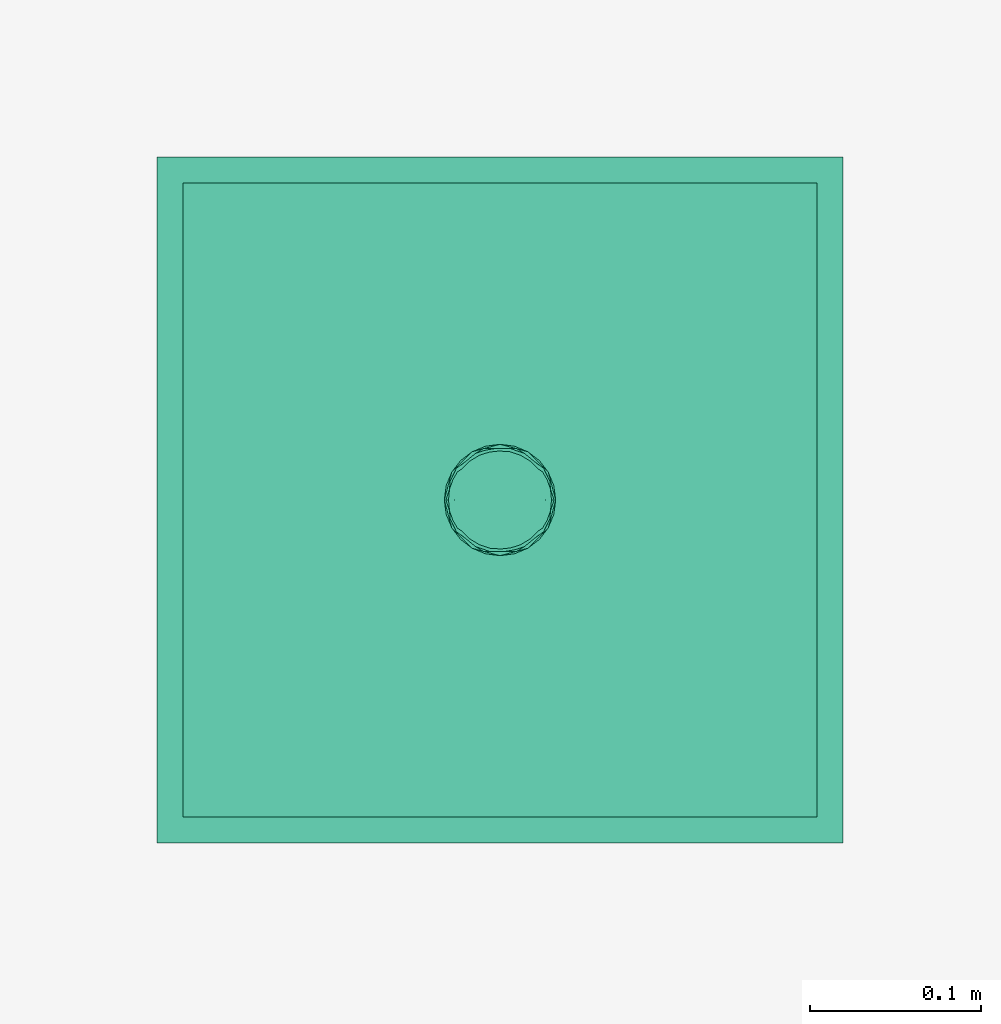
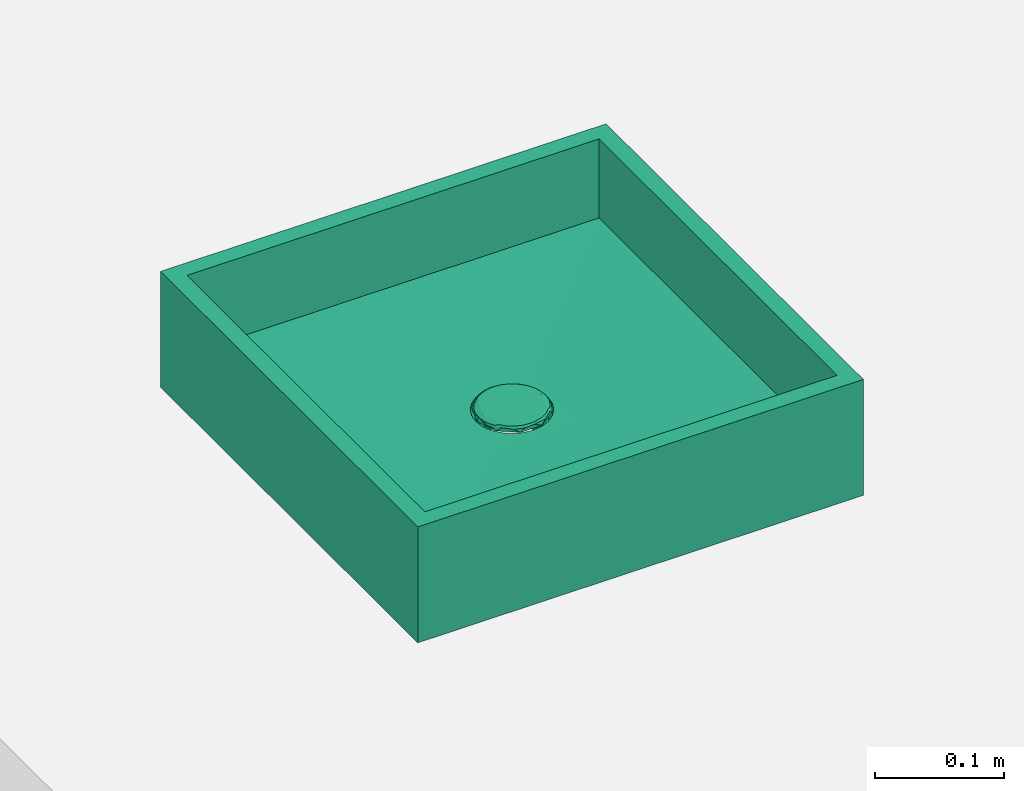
# One storey, part 2 of 2: 1 flow terminal.
"""IFC2X3 building model written with IfcOpenShell, lengths in millimetres."""

from ifc_helpers import new_model, entity, si_unit, converted_unit, derived_unit, direction, frame, origin, place, context, subcontext, project, spatial, faceted_brep, source, transform, mapped, material, element, save


model = new_model("IFC2X3")

# Units and contexts
model_context = context("Model", 3, precision=0.01, world=origin(), true_north=direction((6.12303176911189e-17, 1.0)))
context_of_model = context(None, 3, precision=0.01, world=origin(), true_north=direction((6.12303176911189e-17, 1.0)))
body_context = subcontext(model_context, "Body", "Model", "MODEL_VIEW")
ifc_project = project(units=[si_unit("LENGTHUNIT", "METRE", prefix="MILLI"), si_unit("AREAUNIT", "SQUARE_METRE"), si_unit("VOLUMEUNIT", "CUBIC_METRE"), converted_unit("PLANEANGLEUNIT", "DEGREE", entity("IfcRatioMeasure", 0.0174532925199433), si_unit("PLANEANGLEUNIT", "RADIAN"), dimensions=[0, 0, 0, 0, 0, 0, 0]), si_unit("MASSUNIT", "GRAM", prefix="KILO"), derived_unit("MASSDENSITYUNIT", [(si_unit("MASSUNIT", "GRAM", prefix="KILO"), 1), (si_unit("LENGTHUNIT", "METRE"), -3)]), si_unit("TIMEUNIT", "SECOND"), si_unit("FREQUENCYUNIT", "HERTZ"), si_unit("THERMODYNAMICTEMPERATUREUNIT", "DEGREE_CELSIUS"), derived_unit("THERMALTRANSMITTANCEUNIT", [(si_unit("MASSUNIT", "GRAM", prefix="KILO"), 1), (si_unit("THERMODYNAMICTEMPERATUREUNIT", "KELVIN"), -1), (si_unit("TIMEUNIT", "SECOND"), -3)]), derived_unit("VOLUMETRICFLOWRATEUNIT", [(si_unit("LENGTHUNIT", "METRE"), 3), (si_unit("TIMEUNIT", "SECOND"), -1)]), si_unit("ELECTRICCURRENTUNIT", "AMPERE"), si_unit("ELECTRICVOLTAGEUNIT", "VOLT"), si_unit("POWERUNIT", "WATT"), si_unit("FORCEUNIT", "NEWTON", prefix="KILO"), si_unit("ILLUMINANCEUNIT", "LUX"), si_unit("LUMINOUSFLUXUNIT", "LUMEN"), si_unit("LUMINOUSINTENSITYUNIT", "CANDELA"), derived_unit("USERDEFINED", [(si_unit("MASSUNIT", "GRAM", prefix="KILO"), -1), (si_unit("LENGTHUNIT", "METRE"), -2), (si_unit("TIMEUNIT", "SECOND"), 3), (si_unit("LUMINOUSFLUXUNIT", "LUMEN"), 1)]), derived_unit("LINEARVELOCITYUNIT", [(si_unit("LENGTHUNIT", "METRE"), 1), (si_unit("TIMEUNIT", "SECOND"), -1)]), si_unit("PRESSUREUNIT", "PASCAL"), derived_unit("USERDEFINED", [(si_unit("LENGTHUNIT", "METRE"), -2), (si_unit("MASSUNIT", "GRAM", prefix="KILO"), 1), (si_unit("TIMEUNIT", "SECOND"), -2)])], contexts=[model_context, context_of_model])

# Site, building, storey
site_placement = place(None, origin())
site = spatial("IfcSite", under=ifc_project, at=site_placement, Name="Default", CompositionType="ELEMENT")
building_placement = place(site_placement, origin())
building = spatial("IfcBuilding", under=site, at=building_placement, Name="n/a", CompositionType="ELEMENT")
storey_placement = place(building_placement, origin())
storey = spatial("IfcBuildingStorey", under=building, at=storey_placement, Name="Level 0", CompositionType="ELEMENT", Elevation=0.0)

# Flow terminal
ifc_material = material(Name="DBLTD_Neilur_SolidSurface_White")
shared_shape = source(origin(), body_context, "Body", "Brep", [
    faceted_brep([(0.0, 0.0, 35.0), (21.4389503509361, 15.5763091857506, 35.0), (14.8139503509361, 20.3896534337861, 35.0), (8.18895035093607, 25.2029976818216, 35.0), (0.0, 25.2029976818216, 35.0), (23.969475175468, 7.78815459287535, 35.0), (26.5, 0.0, 35.0), (-8.18895035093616, 25.2029976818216, 35.0), (-14.8139503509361, 20.3896534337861, 35.0), (-21.4389503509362, 15.5763091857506, 35.0), (-23.9694751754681, 7.78815459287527, 35.0), (-26.5000000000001, 0.0, 35.0), (-23.969475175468, -7.78815459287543, 35.0), (23.9694751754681, -7.78815459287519, 35.0), (21.4389503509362, -15.5763091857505, 35.0), (14.8139503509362, -20.389653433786, 35.0), (8.18895035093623, -25.2029976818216, 35.0), (-21.4389503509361, -15.5763091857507, 35.0), (-14.813950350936, -20.3896534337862, 35.0), (-8.188950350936, -25.2029976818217, 35.0), (0.0, -25.2029976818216, 35.0), (27.5968407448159, 11.6392673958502, 33.6181607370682), (28.2677669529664, 0.0, 34.2677669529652), (29.4831430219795, 6.11507081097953, 33.4588116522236), (21.446911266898, 21.3158187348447, 33.3207930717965), (25.4840353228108, 18.515235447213, 30.0), (17.6090353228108, 24.2367578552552, 30.0), (-9.7340353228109, 29.9582802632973, 30.0), (-17.6090353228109, 24.2367578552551, 30.0), (-14.2990292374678, 27.1460196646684, 32.7410080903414), (-26.4461757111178, 16.2373152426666, 32.1098331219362), (-29.0519223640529, 11.0794329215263, 31.9761905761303), (-27.5968407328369, 11.6392674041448, 33.6181607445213), (-25.4840353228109, 18.5152354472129, 30.0), (-6.22017772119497, 27.9409885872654, 34.5259763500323), (-12.0582284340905, 26.0752941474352, 34.4759541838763), (-21.8226872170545, 18.4353402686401, 34.5526049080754), (-17.8048363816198, 22.5831993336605, 34.4611859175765), (-29.4831430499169, 6.11507088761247, 33.4588116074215), (-28.2677669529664, 0.0, 34.2677669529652), (-24.7969163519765, 16.4457168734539, 33.7955523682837), (-8.80272925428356, 28.9743841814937, 33.2704807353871), (5.89997557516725, 30.0572966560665, 32.8170609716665), (0.0, 29.9582802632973, 30.0), (-2.76183433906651, 30.032449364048, 33.4074109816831), (-21.4469113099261, 21.3158186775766, 33.3207930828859), (30.0355339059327, 0.0, 33.5355339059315), (12.0582284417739, 26.0752941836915, 34.4759541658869), (26.4461757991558, 16.2373151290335, 32.1098330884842), (24.7969163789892, 16.4457169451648, 33.7955523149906), (21.8226873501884, 18.4353401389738, 34.5526048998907), (17.8048364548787, 22.5831992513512, 34.461185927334), (31.5, 0.0, 30.0), (28.4920176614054, 9.25761772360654, 30.0), (29.0519224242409, 11.0794327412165, 31.9761905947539), (5.68214279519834, 28.1837553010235, 34.4647193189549), (-0.583033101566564, 28.5582276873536, 34.5540275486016), (14.2990292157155, 27.1460197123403, 32.7410080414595), (9.73403532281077, 29.9582802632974, 30.0), (-31.5, 0.0, 30.0), (-30.0355339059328, 0.0, 33.5355339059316), (-28.4920176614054, 9.25761772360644, 30.0), (17.8048363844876, -22.5831993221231, 34.4611859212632), (-21.446910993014, -21.3158190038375, 33.3207930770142), (-25.4840353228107, -18.5152354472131, 30.0), (-17.6090353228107, -24.2367578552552, 30.0), (9.73403532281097, -29.9582802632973, 30.0), (17.6090353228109, -24.2367578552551, 30.0), (14.2990292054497, -27.1460196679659, 32.7410081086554), (26.4461757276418, -16.2373152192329, 32.1098331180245), (29.0519223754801, -11.0794328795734, 31.9761905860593), (27.5968407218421, -11.6392674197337, 33.6181607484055), (25.4840353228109, -18.5152354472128, 30.0), (6.22017778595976, -27.9409885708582, 34.525976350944), (12.0582284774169, -26.0752941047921, 34.4759541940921), (-27.5968407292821, -11.6392674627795, 33.6181607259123), (-29.48314293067, -6.11507064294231, 33.4588117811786), (29.4831430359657, -6.11507087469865, 33.4588116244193), (24.7969163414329, -16.4457169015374, 33.7955523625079), (21.4469112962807, -21.3158186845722, 33.320793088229), (8.80272921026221, -28.9743842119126, 33.2704807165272), (-5.89997547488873, -30.0572966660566, 32.8170609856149), (0.0, -29.9582802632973, 30.0), (2.76183435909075, -30.0324493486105, 33.4074109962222), (-12.0582286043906, -26.0752941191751, 34.4759541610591), (-26.4461759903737, -16.2373148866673, 32.1098330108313), (-24.7969163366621, -16.4457172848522, 33.7955521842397), (-21.8226874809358, -18.4353400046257, 34.552604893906), (-17.804836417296, -22.5831992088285, 34.4611859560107), (-28.4920176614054, -9.25761772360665, 30.0), (-29.0519225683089, -11.0794322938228, 31.9761906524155), (21.8226872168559, -18.4353402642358, 34.5526049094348), (-5.68214324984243, -28.1837552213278, 34.4647193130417), (0.583033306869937, -28.5582276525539, 34.5540275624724), (-14.2990290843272, -27.1460198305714, 32.7410079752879), (-9.73403532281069, -29.9582802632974, 30.0), (28.4920176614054, -9.25761772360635, 30.0), (0.0, 0.0, 30.0)], [[[0, 1, 2]], [[0, 2, 3]], [[0, 3, 4]], [[0, 5, 1]], [[0, 6, 5]], [[0, 4, 7]], [[0, 7, 8]], [[0, 8, 9]], [[0, 9, 10]], [[0, 10, 11]], [[0, 11, 12]], [[0, 13, 6]], [[0, 14, 13]], [[0, 15, 14]], [[0, 16, 15]], [[0, 12, 17]], [[0, 17, 18]], [[0, 18, 19]], [[0, 19, 20]], [[0, 20, 16]], [[21, 22, 23]], [[24, 25, 26]], [[27, 28, 29]], [[30, 31, 32]], [[31, 30, 33]], [[34, 35, 7]], [[36, 9, 37]], [[38, 39, 32]], [[30, 32, 40]], [[37, 9, 8]], [[27, 29, 41]], [[42, 43, 44]], [[29, 28, 45]], [[34, 41, 35]], [[23, 22, 46]], [[47, 3, 2]], [[48, 24, 49]], [[50, 24, 51]], [[46, 52, 53]], [[8, 35, 37]], [[25, 54, 53]], [[32, 11, 10]], [[28, 33, 45]], [[42, 55, 47]], [[34, 56, 44]], [[24, 26, 57]], [[7, 35, 8]], [[37, 29, 45]], [[29, 37, 35]], [[37, 45, 36]], [[42, 57, 58]], [[57, 26, 58]], [[57, 47, 51]], [[43, 27, 44]], [[47, 55, 3]], [[42, 58, 43]], [[51, 47, 2]], [[51, 1, 50]], [[42, 47, 57]], [[1, 51, 2]], [[57, 51, 24]], [[44, 56, 42]], [[45, 40, 36]], [[34, 4, 56]], [[4, 3, 55]], [[59, 60, 61]], [[54, 25, 48]], [[36, 40, 10]], [[30, 45, 33]], [[32, 10, 40]], [[45, 30, 40]], [[31, 33, 61]], [[60, 38, 61]], [[38, 32, 31]], [[61, 38, 31]], [[10, 9, 36]], [[32, 39, 11]], [[38, 60, 39]], [[6, 21, 5]], [[49, 24, 50]], [[5, 50, 1]], [[48, 49, 21]], [[48, 21, 54]], [[24, 48, 25]], [[21, 23, 54]], [[53, 54, 23]], [[21, 6, 22]], [[53, 23, 46]], [[50, 5, 49]], [[49, 5, 21]], [[4, 34, 7]], [[41, 34, 44]], [[27, 41, 44]], [[35, 41, 29]], [[4, 55, 56]], [[42, 56, 55]], [[62, 14, 15]], [[63, 64, 65]], [[66, 67, 68]], [[69, 70, 71]], [[70, 69, 72]], [[73, 74, 16]], [[75, 39, 76]], [[77, 22, 71]], [[69, 71, 78]], [[68, 67, 79]], [[66, 68, 80]], [[81, 82, 83]], [[84, 19, 18]], [[85, 63, 86]], [[73, 80, 74]], [[60, 76, 39]], [[71, 6, 13]], [[87, 63, 88]], [[60, 59, 89]], [[15, 74, 62]], [[64, 90, 89]], [[91, 14, 62]], [[67, 72, 79]], [[81, 92, 84]], [[73, 93, 83]], [[63, 65, 94]], [[16, 74, 15]], [[62, 68, 79]], [[68, 62, 74]], [[62, 79, 91]], [[81, 94, 95]], [[94, 65, 95]], [[94, 84, 88]], [[82, 66, 83]], [[84, 92, 19]], [[81, 95, 82]], [[88, 84, 18]], [[88, 17, 87]], [[81, 84, 94]], [[17, 88, 18]], [[94, 88, 63]], [[83, 93, 81]], [[79, 78, 91]], [[73, 20, 93]], [[20, 19, 92]], [[52, 46, 96]], [[90, 64, 85]], [[91, 78, 13]], [[69, 79, 72]], [[71, 13, 78]], [[79, 69, 78]], [[70, 72, 96]], [[46, 77, 96]], [[77, 71, 70]], [[96, 77, 70]], [[13, 14, 91]], [[71, 22, 6]], [[77, 46, 22]], [[11, 75, 12]], [[86, 63, 87]], [[12, 87, 17]], [[85, 86, 75]], [[85, 75, 90]], [[63, 85, 64]], [[75, 76, 90]], [[89, 90, 76]], [[75, 11, 39]], [[89, 76, 60]], [[87, 12, 86]], [[86, 12, 75]], [[20, 73, 16]], [[80, 73, 83]], [[66, 80, 83]], [[74, 80, 68]], [[20, 92, 93]], [[81, 93, 92]], [[97, 58, 26]], [[97, 26, 25]], [[97, 25, 53]], [[97, 53, 52]], [[97, 52, 96]], [[97, 43, 58]], [[97, 27, 43]], [[97, 28, 27]], [[97, 33, 28]], [[97, 61, 33]], [[97, 59, 61]], [[97, 96, 72]], [[97, 72, 67]], [[97, 67, 66]], [[97, 66, 82]], [[97, 89, 59]], [[97, 64, 89]], [[97, 65, 64]], [[97, 95, 65]], [[97, 82, 95]]]),
    faceted_brep([(200.0, 200.0, 110.0), (185.0, 185.0, 110.0), (185.0, -185.0, 110.0), (-185.0, 185.0, 110.0), (200.0, -200.0, 110.0), (-200.0, 200.0, 110.0), (-185.0, -185.0, 110.0), (-200.0, -200.0, 110.0), (-200.0, 200.0, 0.0), (-19.4855715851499, 11.25, 0.0), (-21.7333310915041, 5.82342851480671, 0.0), (-15.9099025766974, 15.9099025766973, 0.0), (-22.5, 0.0, 0.0), (-11.25, 19.4855715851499, 0.0), (-5.82342851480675, 21.733331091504, 0.0), (0.0, 22.5, 0.0), (200.0, 200.0, 0.0), (-200.0, -200.0, 0.0), (5.82342851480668, 21.733331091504, 0.0), (11.2499999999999, 19.4855715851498, 0.0), (15.9099025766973, 15.9099025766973, 0.0), (19.4855715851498, 11.2499999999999, 0.0), (21.733331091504, 5.82342851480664, 0.0), (22.4999999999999, 0.0, 0.0), (200.0, -200.0, 0.0), (21.733331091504, -5.82342851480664, 0.0), (19.4855715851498, -11.2499999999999, 0.0), (15.9099025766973, -15.9099025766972, 0.0), (11.25, -19.4855715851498, 0.0), (5.82342851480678, -21.733331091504, 0.0), (0.0, -22.5, 0.0), (-21.733331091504, -5.82342851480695, 0.0), (-19.4855715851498, -11.2500000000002, 0.0), (-15.9099025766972, -15.9099025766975, 0.0), (-11.2499999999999, -19.48557158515, 0.0), (-5.82342851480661, -21.7333310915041, 0.0), (-185.0, 185.0, 35.0), (-185.0, -185.0, 35.0), (185.0, -185.0, 35.0), (185.0, 185.0, 35.0), (31.3925893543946, -8.4116189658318, 30.1799578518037), (28.1458256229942, -16.2499999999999, 30.1799578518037), (35.0, -35.0, 30.1799578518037), (32.4999999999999, 0.0, 30.1799578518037), (22.9809703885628, -22.9809703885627, 30.1799578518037), (16.25, -28.1458256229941, 30.1799578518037), (8.41161896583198, -31.3925893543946, 30.1799578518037), (0.0, -32.4999999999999, 30.1799578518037), (-35.0, -35.0, 30.1799578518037), (-8.41161896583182, -31.3925893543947, 30.1799578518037), (-16.2499999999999, -28.1458256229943, 30.1799578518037), (-22.9809703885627, -22.9809703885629, 30.1799578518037), (-28.1458256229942, -16.2500000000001, 30.1799578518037), (-31.3925893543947, -8.4116189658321, 30.1799578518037), (-32.5, 0.0, 30.1799578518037), (-35.0, 35.0, 30.1799578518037), (-31.3925893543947, 8.4116189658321, 30.1799578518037), (-28.1458256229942, 16.2500000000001, 30.1799578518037), (-22.9809703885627, 22.9809703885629, 30.1799578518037), (-16.2499999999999, 28.1458256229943, 30.1799578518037), (-8.41161896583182, 31.3925893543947, 30.1799578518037), (0.0, 32.4999999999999, 30.1799578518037), (35.0, 35.0, 30.1799578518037), (8.41161896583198, 31.3925893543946, 30.1799578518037), (16.25, 28.1458256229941, 30.1799578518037), (22.9809703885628, 22.9809703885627, 30.1799578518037), (28.1458256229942, 16.2499999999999, 30.1799578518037), (31.3925893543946, 8.4116189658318, 30.1799578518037), (-30.3229128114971, 8.12499999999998, 10.1799578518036), (-22.1979128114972, 22.1979128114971, 10.1799578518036), (0.0, 32.4999999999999, 10.1799578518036), (-8.12500000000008, 30.3229128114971, 10.1799578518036), (16.2499999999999, 28.1458256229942, 10.1799578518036), (8.12499999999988, 30.3229128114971, 10.1799578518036), (-32.5, 0.0, 10.1799578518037), (-16.2500000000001, 28.1458256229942, 10.1799578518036), (-28.1458256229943, 16.25, 10.1799578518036), (22.197912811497, 22.1979128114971, 10.1799578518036), (30.322912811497, 8.12500000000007, 10.1799578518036), (32.4999999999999, 0.0, 10.1799578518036), (28.1458256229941, 16.25, 10.1799578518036), (30.322912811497, -8.12499999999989, 10.1799578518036), (22.1979128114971, -22.197912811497, 10.1799578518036), (0.0, -32.4999999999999, 10.1799578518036), (8.12500000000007, -30.322912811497, 10.1799578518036), (-16.2499999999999, -28.1458256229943, 10.1799578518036), (-8.12499999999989, -30.3229128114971, 10.1799578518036), (16.25, -28.1458256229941, 10.1799578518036), (28.1458256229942, -16.2499999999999, 10.1799578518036), (-28.1458256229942, -16.2500000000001, 10.1799578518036), (-30.3229128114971, -8.12500000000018, 10.1799578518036), (-22.197912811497, -22.1979128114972, 10.1799578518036), (22.4999999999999, 0.0, 10.1799578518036), (21.425720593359, 3.30629204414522, 10.1799578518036), (20.3514411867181, -6.61258408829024, 10.1799578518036), (18.2028823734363, -13.2251681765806, 10.1799578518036), (12.5778823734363, -17.3119698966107, 10.1799578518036), (6.95288237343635, -21.3987716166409, 10.1799578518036), (0.0, -21.3987716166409, 10.1799578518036), (-6.95288237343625, -21.398771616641, 10.1799578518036), (-12.5778823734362, -17.3119698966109, 10.1799578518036), (-18.2028823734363, -13.2251681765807, 10.1799578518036), (-20.3514411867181, -6.61258408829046, 10.1799578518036), (-21.4257205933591, -3.3062920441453, 10.1799578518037), (-22.5, 0.0, 10.1799578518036), (-20.3514411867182, 6.61258408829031, 10.1799578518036), (-18.2028823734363, 13.2251681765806, 10.1799578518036), (-12.5778823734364, 17.3119698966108, 10.1799578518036), (-6.95288237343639, 21.3987716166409, 10.1799578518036), (0.0, 21.3987716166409, 10.1799578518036), (6.95288237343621, 21.3987716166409, 10.1799578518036), (12.5778823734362, 17.3119698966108, 10.1799578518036), (18.2028823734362, 13.2251681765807, 10.1799578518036), (20.3514411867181, 6.61258408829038, 10.1799578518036), (-22.5, 0.0, 5.00414249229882), (22.4999999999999, 0.0, 5.00414172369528)], [[[0, 1, 2]], [[1, 0, 3]], [[2, 4, 0]], [[5, 3, 0]], [[3, 5, 6]], [[7, 6, 5]], [[6, 7, 4]], [[4, 2, 6]], [[8, 9, 10]], [[9, 8, 11]], [[8, 10, 12]], [[13, 11, 8]], [[14, 13, 8]], [[15, 14, 8]], [[8, 16, 15]], [[12, 17, 8]], [[18, 15, 16]], [[19, 18, 16]], [[20, 19, 16]], [[16, 21, 20]], [[21, 16, 22]], [[23, 22, 16]], [[16, 24, 23]], [[25, 23, 24]], [[26, 25, 24]], [[24, 27, 26]], [[27, 24, 28]], [[29, 28, 24]], [[30, 29, 24]], [[30, 24, 17]], [[17, 12, 31]], [[17, 31, 32]], [[32, 33, 17]], [[33, 34, 17]], [[34, 35, 17]], [[17, 35, 30]], [[5, 0, 16, 8]], [[7, 5, 8, 17]], [[4, 7, 17, 24]], [[0, 4, 24, 16]], [[36, 3, 6, 37]], [[37, 6, 2, 38]], [[38, 2, 1, 39]], [[39, 1, 3, 36]], [[40, 41, 42]], [[43, 40, 42]], [[44, 42, 41]], [[42, 44, 45]], [[42, 45, 46]], [[42, 46, 47]], [[47, 48, 42]], [[48, 47, 49]], [[48, 49, 50]], [[48, 50, 51]], [[51, 52, 48]], [[53, 48, 52]], [[48, 53, 54]], [[54, 55, 48]], [[55, 54, 56]], [[55, 56, 57]], [[57, 58, 55]], [[59, 55, 58]], [[55, 59, 60]], [[55, 60, 61]], [[62, 55, 61]], [[61, 63, 62]], [[62, 63, 64]], [[62, 64, 65]], [[62, 65, 66]], [[66, 67, 62]], [[67, 43, 62]], [[42, 62, 43]], [[62, 39, 36, 55]], [[36, 37, 48, 55]], [[48, 37, 38, 42]], [[42, 38, 39, 62]], [[56, 68, 57]], [[58, 69, 59]], [[70, 61, 71]], [[72, 64, 73]], [[54, 74, 56]], [[75, 60, 59]], [[76, 58, 57]], [[75, 59, 69]], [[60, 71, 61]], [[65, 72, 77]], [[78, 79, 67, 80]], [[80, 66, 77]], [[56, 74, 68]], [[58, 76, 69]], [[76, 57, 68]], [[65, 77, 66]], [[60, 75, 71]], [[61, 70, 63]], [[67, 66, 80]], [[67, 79, 43]], [[72, 65, 64]], [[63, 70, 73]], [[63, 73, 64]], [[40, 81, 41]], [[44, 82, 45]], [[83, 47, 84]], [[85, 50, 86]], [[49, 83, 86]], [[43, 79, 40]], [[87, 46, 45]], [[88, 44, 41]], [[87, 45, 82]], [[46, 84, 47]], [[44, 88, 82]], [[53, 89, 90]], [[74, 54, 90]], [[51, 91, 52]], [[53, 90, 54]], [[40, 79, 81]], [[47, 83, 49]], [[53, 52, 89]], [[85, 51, 50]], [[88, 41, 81]], [[89, 52, 91]], [[46, 87, 84]], [[49, 86, 50]], [[51, 85, 91]], [[92, 79, 78]], [[92, 78, 80]], [[80, 93, 92]], [[92, 81, 79]], [[92, 88, 81]], [[88, 92, 94]], [[88, 94, 95]], [[95, 82, 88]], [[95, 87, 82]], [[87, 95, 96]], [[87, 96, 97]], [[97, 84, 87]], [[97, 83, 84]], [[83, 97, 98]], [[83, 98, 99]], [[99, 86, 83]], [[99, 85, 86]], [[85, 99, 100]], [[85, 100, 101]], [[101, 91, 85]], [[101, 89, 91]], [[89, 101, 102]], [[89, 102, 103]], [[89, 103, 104]], [[104, 90, 89]], [[104, 74, 90]], [[104, 68, 74]], [[104, 76, 68]], [[76, 104, 105]], [[76, 105, 106]], [[106, 69, 76]], [[106, 75, 69]], [[75, 106, 107]], [[75, 107, 108]], [[108, 71, 75]], [[108, 70, 71]], [[70, 108, 109]], [[70, 109, 110]], [[110, 73, 70]], [[110, 72, 73]], [[72, 110, 111]], [[72, 111, 112]], [[80, 112, 113]], [[112, 80, 77]], [[112, 77, 72]], [[80, 113, 93]], [[10, 104, 114, 12]], [[105, 10, 9]], [[106, 11, 107]], [[105, 104, 10]], [[109, 18, 110]], [[108, 14, 109]], [[13, 107, 11]], [[108, 13, 14]], [[11, 106, 9]], [[93, 113, 22]], [[15, 109, 14]], [[111, 19, 20]], [[18, 19, 110]], [[109, 15, 18]], [[112, 21, 113]], [[111, 20, 112]], [[111, 110, 19]], [[93, 22, 115]], [[22, 113, 21]], [[115, 92, 93]], [[107, 13, 108]], [[21, 112, 20]], [[105, 9, 106]], [[22, 23, 115]], [[25, 92, 115, 23]], [[94, 25, 26]], [[95, 27, 96]], [[94, 92, 25]], [[98, 35, 99]], [[97, 29, 98]], [[28, 96, 27]], [[97, 28, 29]], [[27, 95, 26]], [[103, 102, 31]], [[30, 98, 29]], [[100, 34, 33]], [[35, 34, 99]], [[98, 30, 35]], [[101, 32, 102]], [[100, 33, 101]], [[100, 99, 34]], [[103, 31, 114]], [[31, 102, 32]], [[114, 104, 103]], [[96, 28, 97]], [[32, 101, 33]], [[94, 26, 95]], [[31, 12, 114]]]),
])
flow_terminal_placement = place(storey_placement, frame((2164.21905141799, 465.255795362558, 0.0)))
element("IfcFlowTerminal", 1, at=flow_terminal_placement, inside=storey, material=ifc_material, Name="18", ObjectType="DBLTD_Neilur_CountertopWashbasins_700240:Countertop Basin", context=body_context, shape_type="MappedRepresentation", body=[
    mapped(shared_shape, transform((0.0, 0.0, 0.0), scale=1.0)),
])

save(model, "model.ifc")
